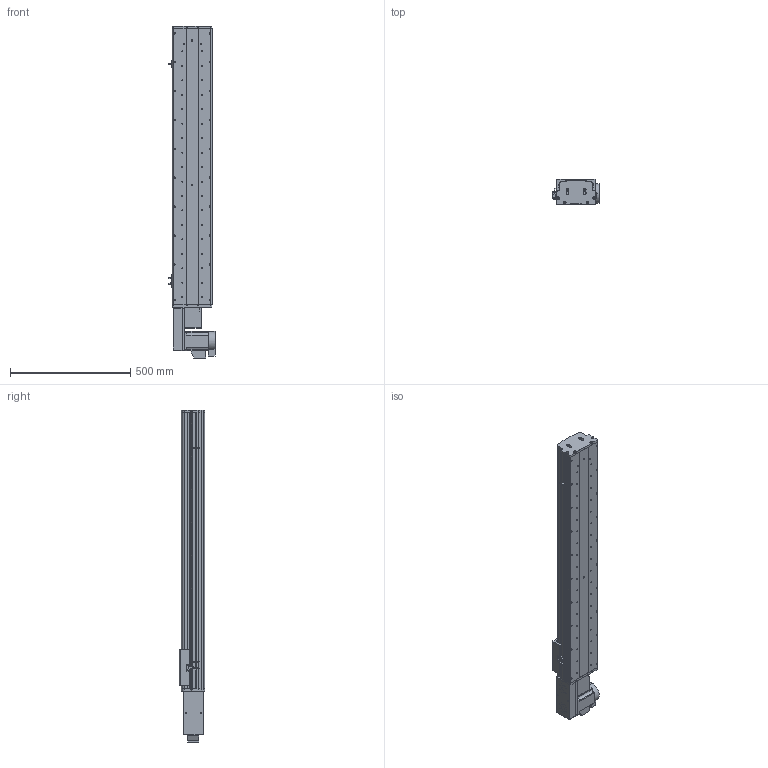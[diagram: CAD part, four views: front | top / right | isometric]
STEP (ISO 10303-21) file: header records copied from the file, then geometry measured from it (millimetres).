
FILE_DESCRIPTION (( 'STEP AP214' ), '1' );
FILE_NAME ('KSD165B-S900-MLB-CM.STEP', '2017-10-16T06:14:03', ( '微软用户' ), ( '微软中国' ), 'SwSTEP 2.0', 'SolidWorks 2014', '' );
FILE_SCHEMA (( 'AUTOMOTIVE_DESIGN' ));
Length unit declared in the file: millimetre
Products named in the file (17): HTPA26S5M250-A-H8 750W萇儂蚚; HTPA26S5M250-A-H8 400W萇儂蚚 ; 130宽模组马达安装板连板左右折同步带; 130宽模组保护罩上下左右折-同步带; 165宽马达安装板同步带左-改; KSD165模组-同步带防尘盖1-900行程-最新版; KSD165模组同步带底板-900行程-最新; 拸秶雄ん750W侜督萇儂; U倰嫖萇假蚾璃; U倰嫖萇EEㄜSX672; 覜茼え68遵圉猾敕; KSD165模组-同步带-防撞垫2; KSD165模组同步带-防撞垫1; KSD165耀郪-ヶ傷啣1-肮祭湍; KSD165模组-后端板1-同步带; KSD165模组-同步带滑动座-最新版; KSD165B-S900-MLB-CM
Assembly tree (20 placements, depth 2):
  KSD165B-S900-MLB-CM
    KSD165模组-同步带滑动座-最新版
    KSD165模组-后端板1-同步带
    KSD165耀郪-ヶ傷啣1-肮祭湍
    KSD165模组同步带-防撞垫1
    KSD165模组-同步带-防撞垫2
    覜茼え68遵圉猾敕
    U倰嫖萇EEㄜSX672  x3
    U倰嫖萇假蚾璃  x3
    拸秶雄ん750W侜督萇儂
    KSD165模组同步带底板-900行程-最新
    KSD165模组-同步带防尘盖1-900行程-最新版
    165宽马达安装板同步带左-改
    130宽模组保护罩上下左右折-同步带
    130宽模组马达安装板连板左右折同步带
    HTPA26S5M250-A-H8 400W萇儂蚚 
    HTPA26S5M250-A-H8 750W萇儂蚚
Bounding box: 191.2 x 104 x 1378 mm (x, y, z)
Volume: 7465701.8 mm3; surface area: 1735280.9 mm2
Topology: 21 solids, 22 shells, 1961 faces, 5532 edges, 3612 vertices
Faces by surface type: cylinder 1261, plane 588, cone 112
Entity records: 63624 total; most frequent: CARTESIAN_POINT 13038, DIRECTION 10460, ORIENTED_EDGE 9724, EDGE_CURVE 4862, AXIS2_PLACEMENT_3D 4104, VERTEX_POINT 3204, CIRCLE 2340, LINE 2252
